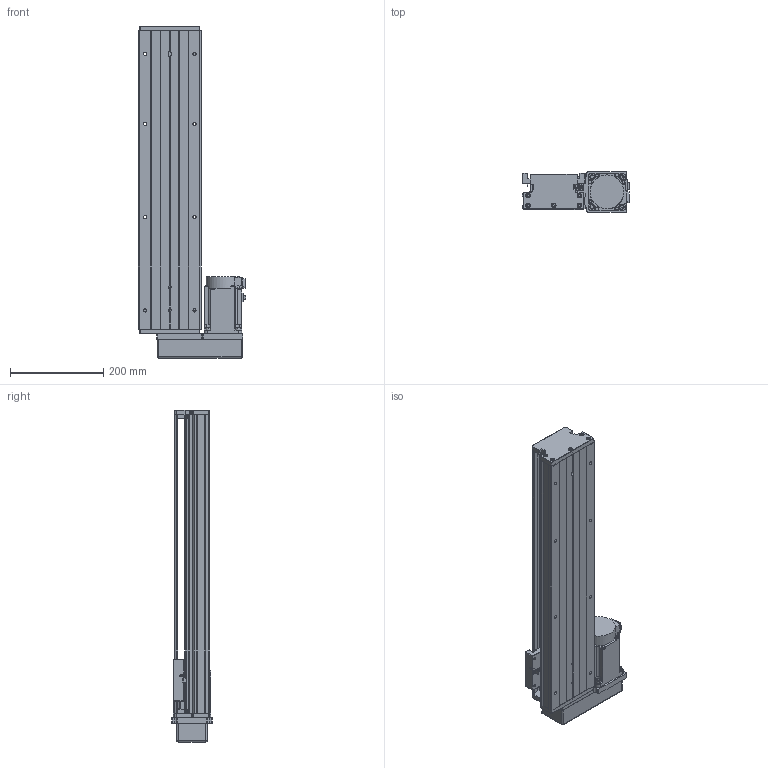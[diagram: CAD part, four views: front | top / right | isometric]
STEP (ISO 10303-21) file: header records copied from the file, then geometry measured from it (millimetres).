
FILE_DESCRIPTION (( 'STEP AP203' ), '1' );
FILE_NAME ('KTH130-500-BR-M75-C4.step', '2023-06-30T04:55:51', ( '微软用户' ), ( '微软中国' ), 'SwSTEP 2.0', 'SolidWorks 2020', '' );
FILE_SCHEMA (( 'CONFIG_CONTROL_DESIGN' ));
Length unit declared in the file: millimetre
Products named in the file (18): GBT77-2000 M3×3; GBT70.1 M5℅16; す晦芛蹟隊 M3℅5; GBT 70.2-M3¡Á5_M3¡Á6; GBT 70.3-M3℅8; GTH14-001_500; CTHA60-017; hg-kn73j_-s100; KTH130-002_KTH130-002; EE_SX911P_R; CTHA86-015-3_CTHA86-015-4; KTH130-004; CTHA60-016; CTHA86-035; KTH130-005; GBT 70.1-M3℅5; KTH130-500-BR-M75-C4; GB1155-6X6
Assembly tree (49 placements, depth 2):
  KTH130-500-BR-M75-C4
    GTH14-001_500
    KTH130-002_KTH130-002
    KTH130-004
    KTH130-005
    GB1155-6X6  x2
    GBT70.1 M5℅16  x10
    GBT 70.2-M3¡Á5_M3¡Á6  x4
    CTHA60-017  x3
    EE_SX911P_R  x3
    CTHA60-016  x2
    GBT 70.1-M3℅5  x6
    GBT77-2000 M3×3  x6
    す晦芛蹟隊 M3℅5  x2
    GBT 70.3-M3℅8  x4
    hg-kn73j_-s100
    CTHA86-015-3_CTHA86-015-4
    CTHA86-035
Bounding box: 230.3 x 87 x 712 mm (x, y, z)
Volume: 4954068.1 mm3; surface area: 715130 mm2
Topology: 52 solids, 52 shells, 2182 faces, 5292 edges, 3311 vertices
Faces by surface type: plane 1206, cylinder 622, cone 238, torus 100, sphere 16
Entity records: 39637 total; most frequent: CARTESIAN_POINT 6672, DIRECTION 6517, ORIENTED_EDGE 6088, EDGE_CURVE 3044, AXIS2_PLACEMENT_3D 2274, LINE 1969, VECTOR 1969, VERTEX_POINT 1945
